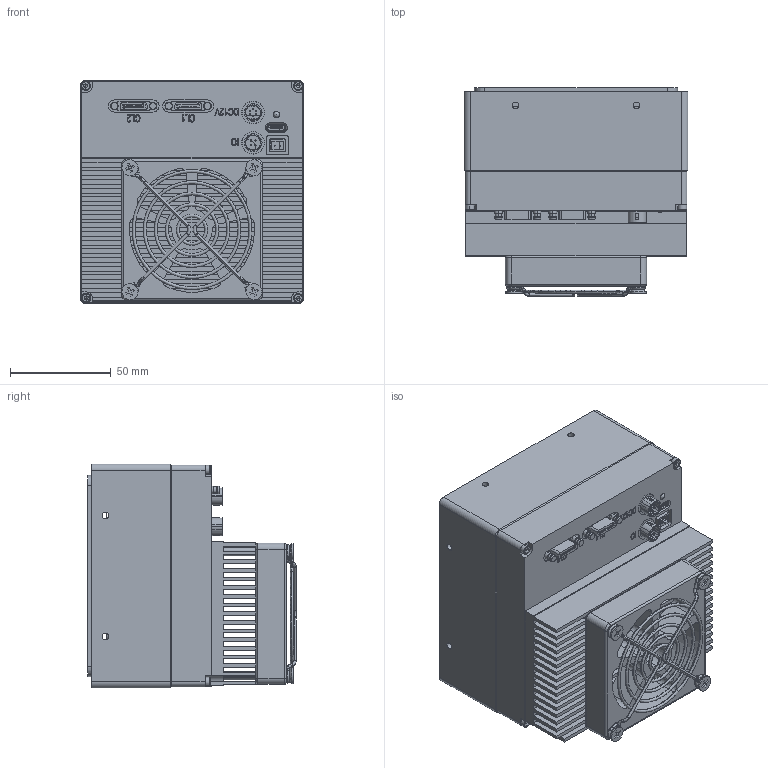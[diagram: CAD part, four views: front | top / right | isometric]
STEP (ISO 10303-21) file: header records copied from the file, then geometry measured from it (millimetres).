
FILE_DESCRIPTION (( 'STEP AP203' ), '1' );
FILE_NAME ('TTS101M2CL-8M(C)-A01-V1.1.0.STEP', '2022-08-11T11:54:41', ( '微软用户' ), ( '微软中国' ), 'SwSTEP 2.0', 'SolidWorks 2017', '' );
FILE_SCHEMA (( 'CONFIG_CONTROL_DESIGN' ));
Length unit declared in the file: millimetre
Products named in the file (1): TTS101M2CL-8M(C)-A01-V1.1.0
Bounding box: 111 x 103.17 x 111 mm (x, y, z)
Surface area: 139922 mm2 (no closed solid volume)
Topology: 0 solids, 80 shells, 903 faces, 3370 edges, 2488 vertices
Faces by surface type: plane 445, cylinder 306, bspline 65, cone 52, torus 24, sphere 11
Entity records: 38890 total; most frequent: CARTESIAN_POINT 11101, DIRECTION 5738, ORIENTED_EDGE 5074, EDGE_CURVE 3331, VERTEX_POINT 2476, LINE 2132, VECTOR 2132, AXIS2_PLACEMENT_3D 1803
